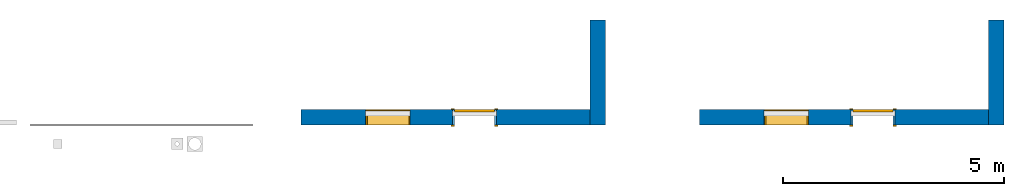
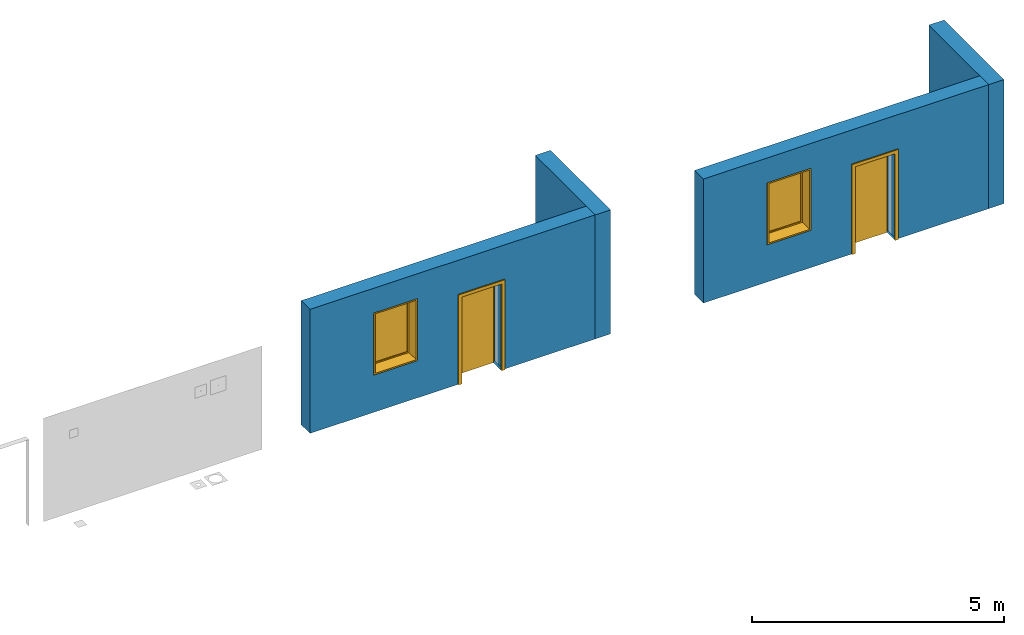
# One storey, part 1 of 3: 4 walls, 2 doors, 2 windows, 8 openings.
"""IFC2X3 building model written with IfcOpenShell, lengths in millimetres."""

from ifc_helpers import new_model, entity, si_unit, converted_unit, derived_unit, direction, frame, frame_2d, origin, origin_2d_with_axis, place, context, subcontext, project, spatial, polyline, rectangle, outline, extrude, source, transform, mapped, material, material_list, layer, layer_set, layer_usage, type_object, type_shapes, element, fill, save


model = new_model("IFC2X3")

# Units and contexts
model_context = context("Model", 3, precision=0.01, world=origin(), true_north=direction((6.12303176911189e-17, 1.0)))
body_context = subcontext(model_context, "Body", "Model", "MODEL_VIEW")
ifc_project = project(units=[si_unit("LENGTHUNIT", "METRE", prefix="MILLI"), si_unit("AREAUNIT", "SQUARE_METRE"), si_unit("VOLUMEUNIT", "CUBIC_METRE"), converted_unit("PLANEANGLEUNIT", "DEGREE", entity("IfcRatioMeasure", 0.0174532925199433), si_unit("PLANEANGLEUNIT", "RADIAN"), dimensions=[0, 0, 0, 0, 0, 0, 0]), si_unit("MASSUNIT", "GRAM", prefix="KILO"), derived_unit("MASSDENSITYUNIT", [(si_unit("MASSUNIT", "GRAM", prefix="KILO"), 1), (si_unit("LENGTHUNIT", "METRE"), -3)]), si_unit("TIMEUNIT", "SECOND"), si_unit("FREQUENCYUNIT", "HERTZ"), si_unit("THERMODYNAMICTEMPERATUREUNIT", "DEGREE_CELSIUS"), derived_unit("THERMALTRANSMITTANCEUNIT", [(si_unit("MASSUNIT", "GRAM", prefix="KILO"), 1), (si_unit("THERMODYNAMICTEMPERATUREUNIT", "KELVIN"), -1), (si_unit("TIMEUNIT", "SECOND"), -3)]), derived_unit("VOLUMETRICFLOWRATEUNIT", [(si_unit("LENGTHUNIT", "METRE"), 3), (si_unit("TIMEUNIT", "SECOND"), -1)]), si_unit("ELECTRICCURRENTUNIT", "AMPERE"), si_unit("ELECTRICVOLTAGEUNIT", "VOLT"), si_unit("POWERUNIT", "WATT"), si_unit("FORCEUNIT", "NEWTON", prefix="KILO"), si_unit("ILLUMINANCEUNIT", "LUX"), si_unit("LUMINOUSFLUXUNIT", "LUMEN"), si_unit("LUMINOUSINTENSITYUNIT", "CANDELA"), derived_unit("USERDEFINED", [(si_unit("MASSUNIT", "GRAM", prefix="KILO"), -1), (si_unit("LENGTHUNIT", "METRE"), -2), (si_unit("TIMEUNIT", "SECOND"), 3), (si_unit("LUMINOUSFLUXUNIT", "LUMEN"), 1)]), derived_unit("LINEARVELOCITYUNIT", [(si_unit("LENGTHUNIT", "METRE"), 1), (si_unit("TIMEUNIT", "SECOND"), -1)]), si_unit("PRESSUREUNIT", "PASCAL"), derived_unit("USERDEFINED", [(si_unit("LENGTHUNIT", "METRE"), -2), (si_unit("MASSUNIT", "GRAM", prefix="KILO"), 1), (si_unit("TIMEUNIT", "SECOND"), -2)])], contexts=[model_context])

# Site, building, storey
site_placement = place(None, origin())
site = spatial("IfcSite", under=ifc_project, at=site_placement, Name="Default", CompositionType="ELEMENT")
building_placement = place(site_placement, origin())
building = spatial("IfcBuilding", under=site, at=building_placement, CompositionType="ELEMENT")
storey_placement = place(building_placement, origin())
storey = spatial("IfcBuildingStorey", under=building, at=storey_placement, Name="Level 1", CompositionType="ELEMENT", Elevation=0.0)

# Wall, openings, window, door
ifc_material_1 = material(Name="Brick, Common")
ifc_layer_1 = layer(ifc_material_1, 90.0)
ifc_material_2 = material(Name="Air")
ifc_layer_2 = layer(ifc_material_2, 76.0)
ifc_material_3 = material(Name="Plywood, Sheathing")
ifc_layer_3 = layer(ifc_material_3, 19.0)
ifc_material_4 = material(Name="Metal Stud Layer")
ifc_layer_4 = layer(ifc_material_4, 152.0)
ifc_material_5 = material(Name="Gypsum Wall Board (1)")
ifc_layer_5 = layer(ifc_material_5, 13.0)
ifc_layer_set = layer_set([ifc_layer_1, ifc_layer_2, ifc_layer_3, ifc_layer_4, ifc_layer_5], Name="Basic Wall:Exterior - Brick on Mtl. Stud")
ifc_layer_usage_1 = layer_usage(ifc_layer_set, "AXIS2", "NEGATIVE", 175.0)
wall_type = type_object("IfcWallType", Name="Basic Wall:Exterior - Brick on Mtl. Stud", PredefinedType="STANDARD", material=ifc_layer_set)
wall_1_placement = place(storey_placement, frame((-1718.83259963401, 14193.9384218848, 0.0)))
wall_1 = element("IfcWallStandardCase", 1, at=wall_1_placement, inside=storey, type_object=wall_type, material=ifc_layer_usage_1, Name="Basic Wall:Exterior - Brick on Mtl. Stud", ObjectType="Basic Wall:Exterior - Brick on Mtl. Stud", context=body_context, shape_type="SweptSolid", body=[
    extrude(rectangle(XDim=6525.0, YDim=349.999999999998, at=frame_2d((3262.5, 4.83169060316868e-13), x_axis=(-1.0, 0.0))), origin(), (0.0, 0.0, 1.0), 3000.0),
])
opening_1_placement = place(wall_1_placement, frame((1457.5, -175.0, 900.0)))
element("IfcOpeningElement", 2, at=opening_1_placement, cuts=wall_1, Name="Basic Wall:Exterior - Brick on Mtl. Stud", ObjectType="Opening", context=body_context, shape_type="SweptSolid", body=[
    extrude(rectangle(XDim=1499.99999999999, YDim=999.999999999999, at=origin_2d_with_axis()), frame((500.0, 0.0, 750.0), z_axis=(0.0, 1.0, 0.0), x_axis=(0.0, 0.0, -1.0)), (0.0, 0.0, 1.0), 349.999999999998),
])
opening_2_placement = place(wall_1_placement, frame((3417.5, -175.0, 0.70801529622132)))
element("IfcOpeningElement", 3, at=opening_2_placement, cuts=wall_1, Name="Basic Wall:Exterior - Brick on Mtl. Stud", ObjectType="Opening", context=body_context, shape_type="SweptSolid", body=[
    extrude(rectangle(XDim=2099.99999999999, YDim=1000.0, at=frame_2d((0.0, -2.8421709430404e-13), x_axis=(1.0, 0.0))), frame((500.0, 0.0, 1050.0), z_axis=(0.0, 1.0, 0.0), x_axis=(0.0, 0.0, -1.0)), (0.0, 0.0, 1.0), 349.999999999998),
])
opening_3_placement = place(wall_1_placement, frame((1462.50000000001, -175.0, 900.0)))
opening_3 = element("IfcOpeningElement", 4, at=opening_3_placement, cuts=wall_1, Name="M_Fixed:1500 x 1000 mm:1", ObjectType="Opening", context=body_context, shape_type="SweptSolid", body=[
    extrude(rectangle(XDim=1500.0, YDim=1000.0, at=frame_2d((749.999999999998, 500.0), x_axis=(1.0, 0.0))), frame((0.0, 0.0, 0.0), z_axis=(0.0, 1.0, 0.0), x_axis=(0.0, 0.0, 1.0)), (0.0, 0.0, 1.0), 350.0),
])
opening_4_placement = place(wall_1_placement, frame((3462.5, -175.0, 0.0)))
opening_4 = element("IfcOpeningElement", 5, at=opening_4_placement, cuts=wall_1, Name="M_Single-Flush:0910 x 2100mm:1", ObjectType="Opening", context=body_context, shape_type="SweptSolid", body=[
    extrude(rectangle(XDim=910.0, YDim=2100.0, at=frame_2d((1050.0, 455.0), x_axis=(0.0, 1.0))), frame((0.0, 0.0, 0.0), z_axis=(0.0, 1.0, 0.0), x_axis=(0.0, 0.0, 1.0)), (0.0, 0.0, 1.0), 350.0),
])
ifc_material_6 = material(Name="Glass")
ifc_material_7 = material(Name="Sash")
ifc_material_list_1 = material_list([ifc_material_6, ifc_material_7])
ifc_material_list_2 = material_list([ifc_material_6, ifc_material_7])
window_style = type_object("IfcWindowStyle", Name="1500 x 1000 mm", ConstructionType="NOTDEFINED", OperationType="NOTDEFINED", ParameterTakesPrecedence=False, Sizeable=False, material=ifc_material_list_2)
shared_shape_1 = source(origin(), body_context, "Body", "SweptSolid", [
    extrude(rectangle(XDim=12.0, YDim=873.999999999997, at=frame_2d((8.43769498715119e-15, 0.0), x_axis=(1.0, 0.0))), frame((500.0, 309.0, 63.0), z_axis=(0.0, 0.0, 1.0), x_axis=(0.0, -1.0, 0.0)), (0.0, 0.0, 1.0), 1374.0),
    extrude(outline(polyline([(-481.0, -731.0), (481.0, -731.0), (481.0, 731.0), (-481.0, 731.0), (-481.0, -731.0)]), holes=[polyline([(-437.0, -687.0), (-437.0, 687.0), (437.0, 687.0), (437.0, -687.0), (-437.0, -687.0)])]), frame((500.0, 287.0, 750.0), z_axis=(0.0, 1.0, 0.0), x_axis=(1.0, 0.0, 0.0)), (0.0, 0.0, 1.0), 44.0000000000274),
    extrude(outline(polyline([(-500.0, -750.0), (500.0, -750.0), (500.0, 750.0), (-500.0, 750.0), (-500.0, -750.0)]), holes=[polyline([(-481.0, -731.0), (-481.0, 731.0), (481.0, 731.0), (481.0, -731.0), (-481.0, -731.0)])]), frame((500.0, 287.0, 750.0), z_axis=(0.0, 1.0, 0.0), x_axis=(1.0, 0.0, 0.0)), (0.0, 0.0, 1.0), 63.0000000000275),
    extrude(outline(polyline([(-500.0, -750.0), (500.0, -750.0), (500.0, 750.0), (-500.0, 750.0), (-500.0, -750.0)]), holes=[polyline([(-468.0, -718.0), (-468.0, 718.0), (468.0, 718.0), (468.0, -718.0), (-468.0, -718.0)])]), frame((500.0, 0.0, 750.0), z_axis=(0.0, 1.0, 0.0), x_axis=(1.0, 0.0, 0.0)), (0.0, 0.0, 1.0), 286.999999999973),
])
type_shapes(window_style, [shared_shape_1])
window_1_placement = place(opening_3_placement, origin())
window_1 = element("IfcWindow", 6, at=window_1_placement, inside=storey, type_object=window_style, material=ifc_material_list_1, Name="M_Fixed:1500 x 1000 mm", ObjectType="M_Fixed:1500 x 1000 mm", OverallHeight=1500.0, OverallWidth=1000.0, context=body_context, shape_type="MappedRepresentation", body=[
    mapped(shared_shape_1, transform((0.0, 0.0, 0.0), scale=1.0)),
])
fill(opening_3, window_1)
ifc_material_8 = material(Name="Door - Frame")
ifc_material_9 = material(Name="Door - Panel")
ifc_material_list_3 = material_list([ifc_material_8, ifc_material_9])
ifc_material_list_4 = material_list([ifc_material_8, ifc_material_9])
door_style = type_object("IfcDoorStyle", Name="0910 x 2100mm", ConstructionType="NOTDEFINED", OperationType="SINGLE_SWING_RIGHT", ParameterTakesPrecedence=False, Sizeable=False, material=ifc_material_list_4)
shared_shape_2 = source(origin(), body_context, "Body", "SweptSolid", [
    extrude(outline(polyline([(-531.0, -1107.0), (531.0, -1107.0), (531.0, 1069.0), (455.0, 1069.0), (455.0, -1031.0), (-455.0, -1031.0), (-455.0, 1069.0), (-531.0, 1069.0), (-531.0, -1107.0)])), frame((455.0, 350.0, 1069.0), z_axis=(0.0, 1.0, 0.0), x_axis=(1.0, 0.0, 0.0)), (0.0, 0.0, 1.0), 24.9999999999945),
    extrude(outline(polyline([(-1107.0, -531.0), (1069.0, -531.0), (1069.0, -455.0), (-1031.0, -455.0), (-1031.0, 455.0), (1069.0, 455.0), (1069.0, 531.0), (-1107.0, 531.0), (-1107.0, -531.0)])), frame((455.0, -25.0, 1069.0), z_axis=(0.0, 1.0, 0.0), x_axis=(0.0, 0.0, -1.0)), (0.0, 0.0, 1.0), 25.0000000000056),
    extrude(rectangle(XDim=51.0, YDim=910.0, at=frame_2d((1.77635683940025e-14, 0.0), x_axis=(1.0, 0.0))), frame((455.0, 324.499999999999, 0.0), z_axis=(0.0, 0.0, 1.0), x_axis=(0.0, 1.0, 0.0)), (0.0, 0.0, 1.0), 2100.0),
])
type_shapes(door_style, [shared_shape_2])
door_1_placement = place(opening_4_placement, origin())
door_1 = element("IfcDoor", 7, at=door_1_placement, inside=storey, type_object=door_style, material=ifc_material_list_3, Name="M_Single-Flush:0910 x 2100mm", ObjectType="M_Single-Flush:0910 x 2100mm", OverallHeight=2100.0, OverallWidth=910.0, context=body_context, shape_type="MappedRepresentation", body=[
    mapped(shared_shape_2, transform((0.0, 0.0, 0.0), scale=1.0)),
])
fill(opening_4, door_1)

# Wall
ifc_layer_usage_2 = layer_usage(ifc_layer_set, "AXIS2", "NEGATIVE", 175.0)
wall_2_placement = place(storey_placement, frame((4981.167400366, 14018.9384218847, 0.0), z_axis=(0.0, 0.0, 1.0), x_axis=(0.0, 1.0, 0.0)))
element("IfcWallStandardCase", 8, at=wall_2_placement, inside=storey, type_object=wall_type, material=ifc_layer_usage_2, Name="Basic Wall:Exterior - Brick on Mtl. Stud", ObjectType="Basic Wall:Exterior - Brick on Mtl. Stud", context=body_context, shape_type="SweptSolid", body=[
    extrude(rectangle(XDim=2375.0, YDim=350.000000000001, at=frame_2d((1187.5, 8.5265128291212e-14), x_axis=(-1.0, 0.0))), origin(), (0.0, 0.0, 1.0), 3000.0),
])

# Wall, openings, window, door
ifc_layer_usage_3 = layer_usage(ifc_layer_set, "AXIS2", "NEGATIVE", 175.0)
wall_3_placement = place(storey_placement, frame((7281.167400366, 14193.9384218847, 0.0)))
wall_3 = element("IfcWallStandardCase", 9, at=wall_3_placement, inside=storey, type_object=wall_type, material=ifc_layer_usage_3, Name="Basic Wall:Exterior - Brick on Mtl. Stud", ObjectType="Basic Wall:Exterior - Brick on Mtl. Stud", context=body_context, shape_type="SweptSolid", body=[
    extrude(rectangle(XDim=6525.0, YDim=349.999999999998, at=frame_2d((3262.5, 4.83169060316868e-13), x_axis=(-1.0, 0.0))), origin(), (0.0, 0.0, 1.0), 3000.0),
])
opening_5_placement = place(wall_3_placement, frame((1457.5, -175.0, 900.0)))
element("IfcOpeningElement", 10, at=opening_5_placement, cuts=wall_3, Name="Basic Wall:Exterior - Brick on Mtl. Stud", ObjectType="Opening", context=body_context, shape_type="SweptSolid", body=[
    extrude(rectangle(XDim=1499.99999999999, YDim=999.999999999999, at=frame_2d((0.0, 5.40012479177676e-13), x_axis=(1.0, 0.0))), frame((500.0, 0.0, 750.0), z_axis=(0.0, 1.0, 0.0), x_axis=(0.0, 0.0, -1.0)), (0.0, 0.0, 1.0), 349.999999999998),
])
opening_6_placement = place(wall_3_placement, frame((3417.5, -175.0, 0.70801529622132)))
element("IfcOpeningElement", 11, at=opening_6_placement, cuts=wall_3, Name="Basic Wall:Exterior - Brick on Mtl. Stud", ObjectType="Opening", context=body_context, shape_type="SweptSolid", body=[
    extrude(rectangle(XDim=2099.99999999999, YDim=1000.0, at=frame_2d((0.0, -1.08002495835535e-12), x_axis=(1.0, 0.0))), frame((500.0, 0.0, 1050.0), z_axis=(0.0, 1.0, 0.0), x_axis=(0.0, 0.0, -1.0)), (0.0, 0.0, 1.0), 349.999999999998),
])
opening_7_placement = place(wall_3_placement, frame((1462.50000000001, -175.0, 900.0)))
opening_7 = element("IfcOpeningElement", 12, at=opening_7_placement, cuts=wall_3, Name="M_Fixed:1500 x 1000 mm:1", ObjectType="Opening", context=body_context, shape_type="SweptSolid", body=[
    extrude(rectangle(XDim=1500.0, YDim=1000.0, at=frame_2d((749.999999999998, 500.0), x_axis=(1.0, 0.0))), frame((0.0, 0.0, 0.0), z_axis=(0.0, 1.0, 0.0), x_axis=(0.0, 0.0, 1.0)), (0.0, 0.0, 1.0), 350.0),
])
opening_8_placement = place(wall_3_placement, frame((3462.5, -175.0, 0.0)))
opening_8 = element("IfcOpeningElement", 13, at=opening_8_placement, cuts=wall_3, Name="M_Single-Flush:0910 x 2100mm:1", ObjectType="Opening", context=body_context, shape_type="SweptSolid", body=[
    extrude(rectangle(XDim=910.0, YDim=2100.0, at=frame_2d((1050.0, 455.000000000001), x_axis=(0.0, 1.0))), frame((0.0, 0.0, 0.0), z_axis=(0.0, 1.0, 0.0), x_axis=(0.0, 0.0, 1.0)), (0.0, 0.0, 1.0), 350.0),
])
ifc_material_list_5 = material_list([ifc_material_6, ifc_material_7])
window_2_placement = place(opening_7_placement, origin())
window_2 = element("IfcWindow", 14, at=window_2_placement, inside=storey, type_object=window_style, material=ifc_material_list_5, Name="M_Fixed:1500 x 1000 mm", ObjectType="M_Fixed:1500 x 1000 mm", OverallHeight=1500.0, OverallWidth=1000.0, context=body_context, shape_type="MappedRepresentation", body=[
    mapped(shared_shape_1, transform((0.0, 0.0, 0.0), scale=1.0)),
])
fill(opening_7, window_2)
ifc_material_list_6 = material_list([ifc_material_8, ifc_material_9])
door_2_placement = place(opening_8_placement, origin())
door_2 = element("IfcDoor", 15, at=door_2_placement, inside=storey, type_object=door_style, material=ifc_material_list_6, Name="M_Single-Flush:0910 x 2100mm", ObjectType="M_Single-Flush:0910 x 2100mm", OverallHeight=2100.0, OverallWidth=910.000000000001, context=body_context, shape_type="MappedRepresentation", body=[
    mapped(shared_shape_2, transform((0.0, 0.0, 0.0), scale=1.0)),
])
fill(opening_8, door_2)

# Wall
ifc_layer_usage_4 = layer_usage(ifc_layer_set, "AXIS2", "NEGATIVE", 175.0)
wall_4_placement = place(storey_placement, frame((13981.167400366, 14018.9384218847, 0.0), z_axis=(0.0, 0.0, 1.0), x_axis=(0.0, 1.0, 0.0)))
element("IfcWallStandardCase", 16, at=wall_4_placement, inside=storey, type_object=wall_type, material=ifc_layer_usage_4, Name="Basic Wall:Exterior - Brick on Mtl. Stud", ObjectType="Basic Wall:Exterior - Brick on Mtl. Stud", context=body_context, shape_type="SweptSolid", body=[
    extrude(rectangle(XDim=2375.0, YDim=349.999999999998, at=frame_2d((1187.5, 6.25277607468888e-13), x_axis=(-1.0, 0.0))), origin(), (0.0, 0.0, 1.0), 3000.0),
])

save(model, "model.ifc")
